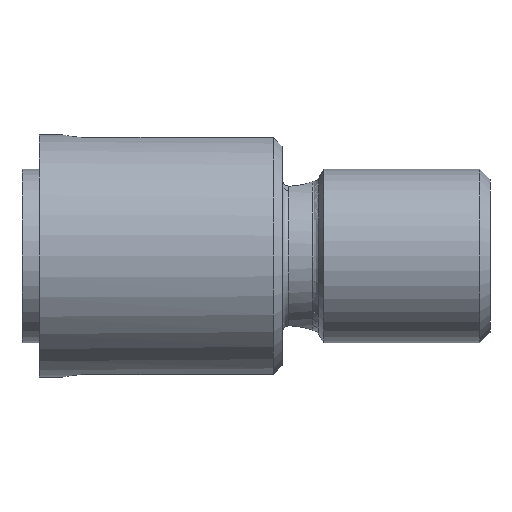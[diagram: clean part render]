
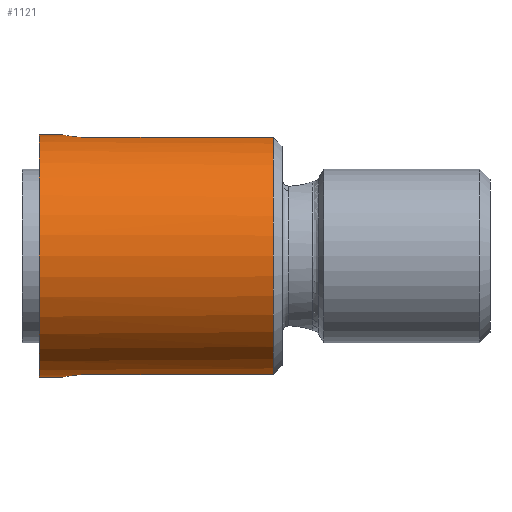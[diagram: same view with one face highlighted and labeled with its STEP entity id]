
A CAD part, left-side view. The second image highlights one B-rep face of the part: STEP entity #1121.
In plain terms, the highlighted cylindrical face has radius 7 mm (diameter 14 mm), a partial arc.
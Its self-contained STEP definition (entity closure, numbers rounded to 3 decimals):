
#12 = CARTESIAN_POINT ( 'NONE',  ( -0.396, -1.34, -6.991 ) ) ;
#31 = VERTEX_POINT ( 'NONE', #2120 ) ;
#35 = CARTESIAN_POINT ( 'NONE',  ( 0., 6.807, 0. ) ) ;
#74 = CARTESIAN_POINT ( 'NONE',  ( 0., -1.3, 7. ) ) ;
#141 = CARTESIAN_POINT ( 'NONE',  ( -0.199, -1.3, -7. ) ) ;
#146 = CARTESIAN_POINT ( 'NONE',  ( 0., -1.3, 7. ) ) ;
#181 = VERTEX_POINT ( 'NONE', #660 ) ;
#206 = CARTESIAN_POINT ( 'NONE',  ( -1.31, -2.044, -6.877 ) ) ;
#241 = FACE_OUTER_BOUND ( 'NONE', #319, .T. ) ;
#266 = DIRECTION ( 'NONE',  ( 0., 1., 0. ) ) ;
#282 = DIRECTION ( 'NONE',  ( 0., 1., 0. ) ) ;
#288 = DIRECTION ( 'NONE',  ( 0., 0., -1. ) ) ;
#293 = ORIENTED_EDGE ( 'NONE', *, *, #3274, .F. ) ;
#319 = EDGE_LOOP ( 'NONE', ( #2023, #293, #3025, #1171, #2741, #1607, #2488, #2486 ) ) ;
#364 = CARTESIAN_POINT ( 'NONE',  ( -1.5, -2.8, 6.837 ) ) ;
#373 = CARTESIAN_POINT ( 'NONE',  ( -1.5, -2.8, -6.837 ) ) ;
#451 = DIRECTION ( 'NONE',  ( 0., 0., 1. ) ) ;
#464 = AXIS2_PLACEMENT_3D ( 'NONE', #2759, #2753, #2746 ) ;
#490 = CARTESIAN_POINT ( 'NONE',  ( -1.5, -2.602, 6.837 ) ) ;
#525 = CARTESIAN_POINT ( 'NONE',  ( -1.5, 6.807, -6.837 ) ) ;
#530 = VERTEX_POINT ( 'NONE', #1385 ) ;
#660 = CARTESIAN_POINT ( 'NONE',  ( -1.5, -2.8, -6.837 ) ) ;
#665 = CARTESIAN_POINT ( 'NONE',  ( 0., 0., 7. ) ) ;
#690 = DIRECTION ( 'NONE',  ( 0., 1., 0. ) ) ;
#732 = CARTESIAN_POINT ( 'NONE',  ( -1.347, -2.133, 6.869 ) ) ;
#862 = CARTESIAN_POINT ( 'NONE',  ( 0., 6.807, -7. ) ) ;
#894 = CARTESIAN_POINT ( 'NONE',  ( -0.923, -1.602, -6.94 ) ) ;
#907 = CARTESIAN_POINT ( 'NONE',  ( -1.5, -13.5, -6.837 ) ) ;
#950 = LINE ( 'NONE', #1199, #1629 ) ;
#975 = CARTESIAN_POINT ( 'NONE',  ( -1.5, -2.701, -6.837 ) ) ;
#992 = EDGE_CURVE ( 'NONE', #530, #1894, #3103, .T. ) ;
#1043 = DIRECTION ( 'NONE',  ( 0., 1., 0. ) ) ;
#1072 = LINE ( 'NONE', #2087, #1769 ) ;
#1097 = VECTOR ( 'NONE', #3064, 1000. ) ;
#1108 = VERTEX_POINT ( 'NONE', #2401 ) ;
#1121 = ADVANCED_FACE ( 'NONE', ( #241 ), #1663, .T. ) ;
#1171 = ORIENTED_EDGE ( 'NONE', *, *, #1572, .T. ) ;
#1197 = CARTESIAN_POINT ( 'NONE',  ( -0.196, -1.3, 7. ) ) ;
#1199 = CARTESIAN_POINT ( 'NONE',  ( 0., 6.807, 7. ) ) ;
#1201 = B_SPLINE_CURVE_WITH_KNOTS ( 'NONE', 3,
 ( #373, #975, #2189, #1280, #2749, #206, #1258, #894, #2542, #12, #141, #1432 ),
 .UNSPECIFIED., .F., .F.,
 ( 4, 2, 2, 2, 2, 4 ),
 ( 0.007, 0.007, 0.008, 0.008, 0.009, 0.009 ),
 .UNSPECIFIED. ) ;
#1212 = DIRECTION ( 'NONE',  ( 0., 1., 0. ) ) ;
#1258 = CARTESIAN_POINT ( 'NONE',  ( -1.199, -1.878, -6.898 ) ) ;
#1280 = CARTESIAN_POINT ( 'NONE',  ( -1.452, -2.411, -6.848 ) ) ;
#1385 = CARTESIAN_POINT ( 'NONE',  ( 0., 0., -7. ) ) ;
#1432 = CARTESIAN_POINT ( 'NONE',  ( 0., -1.3, -7. ) ) ;
#1485 = AXIS2_PLACEMENT_3D ( 'NONE', #35, #282, #451 ) ;
#1511 = VERTEX_POINT ( 'NONE', #2086 ) ;
#1572 = EDGE_CURVE ( 'NONE', #2513, #31, #2964, .T. ) ;
#1607 = ORIENTED_EDGE ( 'NONE', *, *, #2317, .F. ) ;
#1629 = VECTOR ( 'NONE', #1212, 1000. ) ;
#1656 = CARTESIAN_POINT ( 'NONE',  ( -0.394, -1.34, 6.991 ) ) ;
#1663 = CYLINDRICAL_SURFACE ( 'NONE', #1485, 7. ) ;
#1715 = VECTOR ( 'NONE', #690, 1000. ) ;
#1769 = VECTOR ( 'NONE', #1043, 1000. ) ;
#1894 = VERTEX_POINT ( 'NONE', #665 ) ;
#1943 = EDGE_CURVE ( 'NONE', #2947, #1894, #950, .T. ) ;
#2019 = CARTESIAN_POINT ( 'NONE',  ( -1.301, -2.047, 6.878 ) ) ;
#2023 = ORIENTED_EDGE ( 'NONE', *, *, #2755, .F. ) ;
#2086 = CARTESIAN_POINT ( 'NONE',  ( -1.5, -2.8, 6.837 ) ) ;
#2087 = CARTESIAN_POINT ( 'NONE',  ( -1.5, 6.807, 6.837 ) ) ;
#2120 = CARTESIAN_POINT ( 'NONE',  ( -1.5, -13.5, 6.837 ) ) ;
#2141 = CARTESIAN_POINT ( 'NONE',  ( -1.461, -2.407, 6.846 ) ) ;
#2189 = CARTESIAN_POINT ( 'NONE',  ( -1.49, -2.603, -6.84 ) ) ;
#2317 = EDGE_CURVE ( 'NONE', #2947, #1511, #2571, .T. ) ;
#2401 = CARTESIAN_POINT ( 'NONE',  ( 0., -1.3, -7. ) ) ;
#2428 = CARTESIAN_POINT ( 'NONE',  ( -1.13, -1.808, 6.909 ) ) ;
#2464 = CARTESIAN_POINT ( 'NONE',  ( 0., -13.5, 0. ) ) ;
#2470 = LINE ( 'NONE', #862, #1715 ) ;
#2486 = ORIENTED_EDGE ( 'NONE', *, *, #992, .F. ) ;
#2488 = ORIENTED_EDGE ( 'NONE', *, *, #1943, .T. ) ;
#2513 = VERTEX_POINT ( 'NONE', #907 ) ;
#2539 = EDGE_CURVE ( 'NONE', #31, #1511, #1072, .T. ) ;
#2542 = CARTESIAN_POINT ( 'NONE',  ( -0.757, -1.49, -6.961 ) ) ;
#2571 = B_SPLINE_CURVE_WITH_KNOTS ( 'NONE', 3,
 ( #146, #1197, #1656, #3246, #2959, #2428, #3129, #2019, #732, #2141, #490, #364 ),
 .UNSPECIFIED., .F., .F.,
 ( 4, 2, 2, 2, 2, 4 ),
 ( 0.005, 0.005, 0.006, 0.006, 0.006, 0.007 ),
 .UNSPECIFIED. ) ;
#2741 = ORIENTED_EDGE ( 'NONE', *, *, #2539, .T. ) ;
#2746 = DIRECTION ( 'NONE',  ( 0., 0., 1. ) ) ;
#2749 = CARTESIAN_POINT ( 'NONE',  ( -1.423, -2.316, -6.854 ) ) ;
#2753 = DIRECTION ( 'NONE',  ( 0., 1., 0. ) ) ;
#2755 = EDGE_CURVE ( 'NONE', #1108, #530, #2470, .T. ) ;
#2759 = CARTESIAN_POINT ( 'NONE',  ( 0., 0., 0. ) ) ;
#2947 = VERTEX_POINT ( 'NONE', #74 ) ;
#2957 = AXIS2_PLACEMENT_3D ( 'NONE', #2464, #266, #288 ) ;
#2959 = CARTESIAN_POINT ( 'NONE',  ( -0.922, -1.601, 6.94 ) ) ;
#2964 = CIRCLE ( 'NONE', #2957, 7. ) ;
#3025 = ORIENTED_EDGE ( 'NONE', *, *, #3278, .T. ) ;
#3064 = DIRECTION ( 'NONE',  ( 0., -1., 0. ) ) ;
#3068 = LINE ( 'NONE', #525, #1097 ) ;
#3103 = CIRCLE ( 'NONE', #464, 7. ) ;
#3129 = CARTESIAN_POINT ( 'NONE',  ( -1.193, -1.885, 6.898 ) ) ;
#3246 = CARTESIAN_POINT ( 'NONE',  ( -0.755, -1.489, 6.961 ) ) ;
#3274 = EDGE_CURVE ( 'NONE', #181, #1108, #1201, .T. ) ;
#3278 = EDGE_CURVE ( 'NONE', #181, #2513, #3068, .T. ) ;
